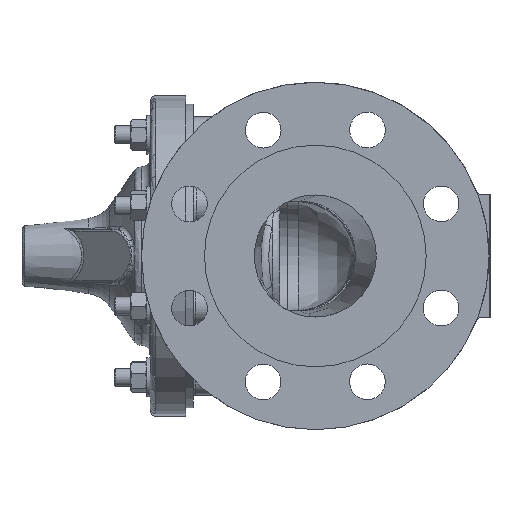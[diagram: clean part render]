
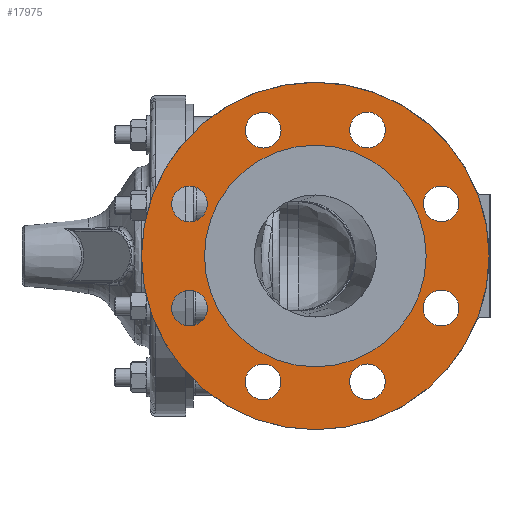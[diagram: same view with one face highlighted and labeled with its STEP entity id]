
A CAD part, left-side view. The second image highlights one B-rep face of the part: STEP entity #17975.
In plain terms, the highlighted planar face has unit normal (-1, 0, 0).
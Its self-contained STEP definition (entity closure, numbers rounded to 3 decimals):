
#3827=FACE_BOUND('',#5315,.T.);
#3828=FACE_BOUND('',#5316,.T.);
#3829=FACE_BOUND('',#5317,.T.);
#3830=FACE_BOUND('',#5318,.T.);
#3831=FACE_BOUND('',#5319,.T.);
#3832=FACE_BOUND('',#5320,.T.);
#3833=FACE_BOUND('',#5321,.T.);
#3834=FACE_BOUND('',#5322,.T.);
#3835=FACE_BOUND('',#5323,.T.);
#4193=FACE_OUTER_BOUND('',#5314,.T.);
#5314=EDGE_LOOP('',(#13160));
#5315=EDGE_LOOP('',(#13161));
#5316=EDGE_LOOP('',(#13162));
#5317=EDGE_LOOP('',(#13163));
#5318=EDGE_LOOP('',(#13164));
#5319=EDGE_LOOP('',(#13165));
#5320=EDGE_LOOP('',(#13166));
#5321=EDGE_LOOP('',(#13167));
#5322=EDGE_LOOP('',(#13168));
#5323=EDGE_LOOP('',(#13169));
#6303=CIRCLE('',#18994,92.5);
#6363=CIRCLE('',#19091,9.5);
#6365=CIRCLE('',#19094,9.5);
#6367=CIRCLE('',#19097,9.5);
#6369=CIRCLE('',#19100,9.5);
#6371=CIRCLE('',#19103,9.5);
#6373=CIRCLE('',#19106,9.5);
#6375=CIRCLE('',#19109,9.5);
#6377=CIRCLE('',#19112,9.5);
#6444=CIRCLE('',#19240,59.);
#7228=VERTEX_POINT('',#32906);
#7329=VERTEX_POINT('',#35145);
#7331=VERTEX_POINT('',#35151);
#7333=VERTEX_POINT('',#35157);
#7335=VERTEX_POINT('',#35163);
#7337=VERTEX_POINT('',#35169);
#7339=VERTEX_POINT('',#35175);
#7341=VERTEX_POINT('',#35181);
#7343=VERTEX_POINT('',#35187);
#7435=VERTEX_POINT('',#37606);
#9181=EDGE_CURVE('',#7228,#7228,#6303,.T.);
#9340=EDGE_CURVE('',#7329,#7329,#6363,.T.);
#9343=EDGE_CURVE('',#7331,#7331,#6365,.T.);
#9346=EDGE_CURVE('',#7333,#7333,#6367,.T.);
#9349=EDGE_CURVE('',#7335,#7335,#6369,.T.);
#9352=EDGE_CURVE('',#7337,#7337,#6371,.T.);
#9355=EDGE_CURVE('',#7339,#7339,#6373,.T.);
#9358=EDGE_CURVE('',#7341,#7341,#6375,.T.);
#9361=EDGE_CURVE('',#7343,#7343,#6377,.T.);
#9539=EDGE_CURVE('',#7435,#7435,#6444,.T.);
#13160=ORIENTED_EDGE('',*,*,#9181,.F.);
#13161=ORIENTED_EDGE('',*,*,#9340,.T.);
#13162=ORIENTED_EDGE('',*,*,#9343,.T.);
#13163=ORIENTED_EDGE('',*,*,#9346,.T.);
#13164=ORIENTED_EDGE('',*,*,#9349,.T.);
#13165=ORIENTED_EDGE('',*,*,#9352,.T.);
#13166=ORIENTED_EDGE('',*,*,#9355,.T.);
#13167=ORIENTED_EDGE('',*,*,#9358,.T.);
#13168=ORIENTED_EDGE('',*,*,#9361,.T.);
#13169=ORIENTED_EDGE('',*,*,#9539,.T.);
#17289=PLANE('',#19242);
#17975=ADVANCED_FACE('',(#4193,#3827,#3828,#3829,#3830,#3831,#3832,#3833,
#3834,#3835),#17289,.T.);
#18994=AXIS2_PLACEMENT_3D('',#32908,#20905,#20906);
#19091=AXIS2_PLACEMENT_3D('',#35146,#21132,#21133);
#19094=AXIS2_PLACEMENT_3D('',#35152,#21139,#21140);
#19097=AXIS2_PLACEMENT_3D('',#35158,#21146,#21147);
#19100=AXIS2_PLACEMENT_3D('',#35164,#21153,#21154);
#19103=AXIS2_PLACEMENT_3D('',#35170,#21160,#21161);
#19106=AXIS2_PLACEMENT_3D('',#35176,#21167,#21168);
#19109=AXIS2_PLACEMENT_3D('',#35182,#21174,#21175);
#19112=AXIS2_PLACEMENT_3D('',#35188,#21181,#21182);
#19240=AXIS2_PLACEMENT_3D('',#37607,#21475,#21476);
#19242=AXIS2_PLACEMENT_3D('',#37611,#21480,#21481);
#20905=DIRECTION('center_axis',(1.,0.,0.));
#20906=DIRECTION('ref_axis',(0.,0.,
1.));
#21132=DIRECTION('center_axis',(1.,0.,0.));
#21133=DIRECTION('ref_axis',(0.,1.,0.));
#21139=DIRECTION('center_axis',(1.,0.,0.));
#21140=DIRECTION('ref_axis',(0.,0.707,0.707));
#21146=DIRECTION('center_axis',(1.,0.,0.));
#21147=DIRECTION('ref_axis',(0.,0.,
1.));
#21153=DIRECTION('center_axis',(1.,0.,0.));
#21154=DIRECTION('ref_axis',(0.,-0.707,0.707));
#21160=DIRECTION('center_axis',(1.,0.,0.));
#21161=DIRECTION('ref_axis',(0.,-1.,0.));
#21167=DIRECTION('center_axis',(1.,0.,0.));
#21168=DIRECTION('ref_axis',(0.,-0.707,-0.707));
#21174=DIRECTION('center_axis',(1.,0.,0.));
#21175=DIRECTION('ref_axis',(0.,0.707,-0.707));
#21181=DIRECTION('center_axis',(1.,0.,0.));
#21182=DIRECTION('ref_axis',(0.,0.,
-1.));
#21475=DIRECTION('center_axis',(1.,0.,0.));
#21476=DIRECTION('ref_axis',(0.,0.,
1.));
#21480=DIRECTION('center_axis',(-1.,0.,0.));
#21481=DIRECTION('ref_axis',(0.,0.,
1.));
#32906=CARTESIAN_POINT('',(-142.,-68.85,-92.5));
#32908=CARTESIAN_POINT('Origin',(-142.,-68.85,0.));
#35145=CARTESIAN_POINT('',(-142.,-106.095,-66.981));
#35146=CARTESIAN_POINT('Origin',(-142.,-96.595,-66.981));
#35151=CARTESIAN_POINT('',(-142.,-47.823,-73.699));
#35152=CARTESIAN_POINT('Origin',(-142.,-41.105,-66.981));
#35157=CARTESIAN_POINT('',(-142.,-1.869,-37.245));
#35158=CARTESIAN_POINT('Origin',(-142.,-1.869,-27.745));
#35163=CARTESIAN_POINT('',(-142.,4.849,21.027));
#35164=CARTESIAN_POINT('Origin',(-142.,-1.869,27.745));
#35169=CARTESIAN_POINT('',(-142.,-31.605,66.981));
#35170=CARTESIAN_POINT('Origin',(-142.,-41.105,66.981));
#35175=CARTESIAN_POINT('',(-142.,-89.877,73.699));
#35176=CARTESIAN_POINT('Origin',(-142.,-96.595,66.981));
#35181=CARTESIAN_POINT('',(-142.,-142.549,-21.027));
#35182=CARTESIAN_POINT('Origin',(-142.,-135.831,-27.745));
#35187=CARTESIAN_POINT('',(-142.,-135.831,37.245));
#35188=CARTESIAN_POINT('Origin',(-142.,-135.831,27.745));
#37606=CARTESIAN_POINT('',(-142.,-68.85,-59.));
#37607=CARTESIAN_POINT('Origin',(-142.,-68.85,0.));
#37611=CARTESIAN_POINT('Origin',(-142.,-68.85,0.));
